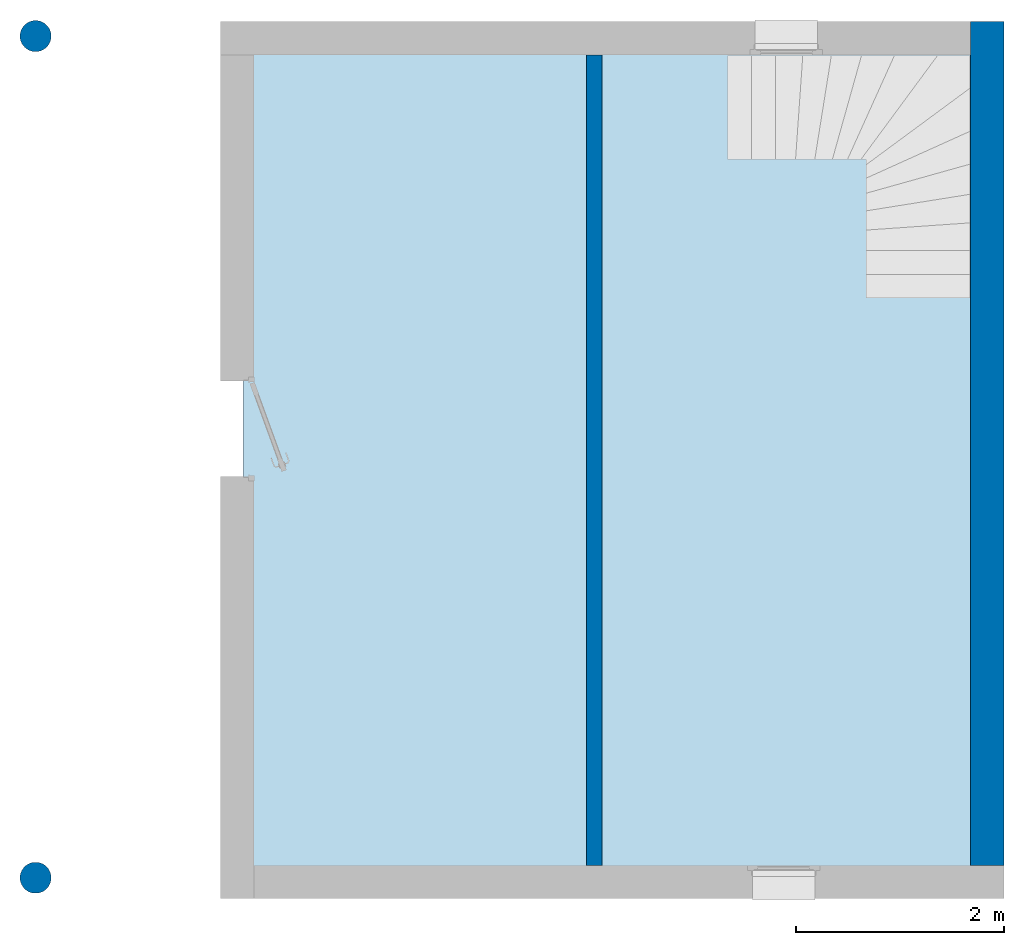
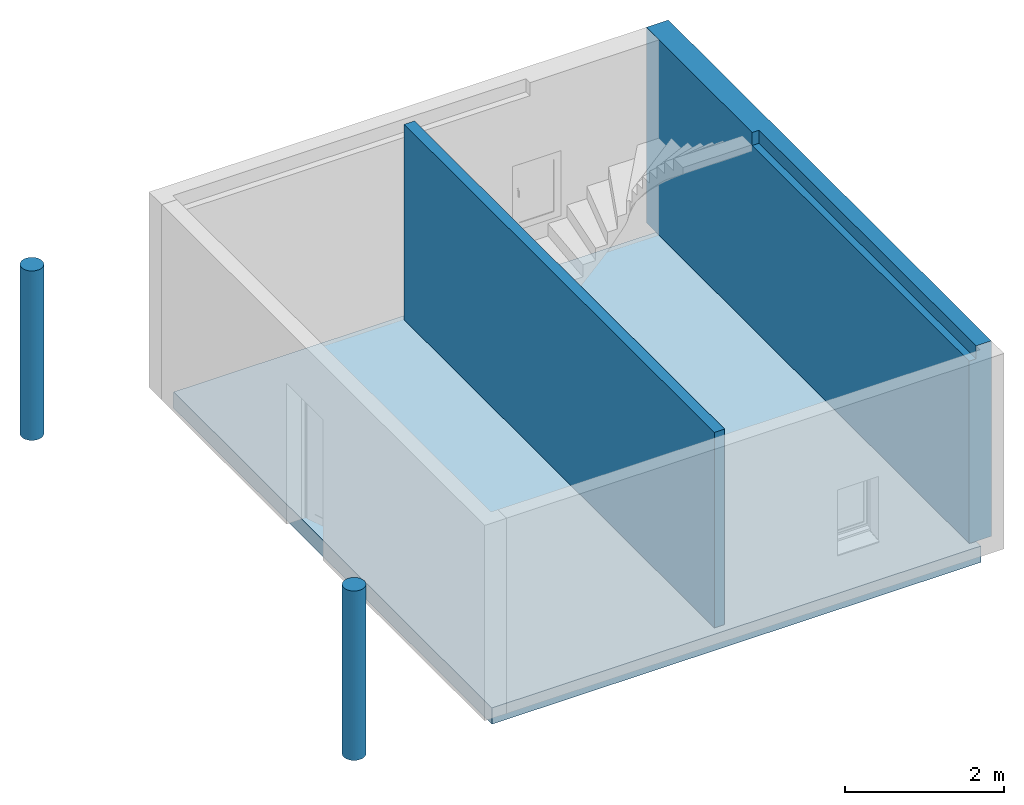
# One storey, part 1 of 4: 2 columns, 2 walls, 1 slab.
"""IFC2X3 building model written with IfcOpenShell, lengths in metres."""

from ifc_helpers import new_model, entity, si_unit, converted_unit, derived_unit, direction, frame, frame_2d, origin, origin_2d_with_axis, place, context, subcontext, project, spatial, polyline, circle_curve, parameter, trimmed, segment, composite_curve, rectangle, outline, extrude, faceted_brep, source, transform, mapped, material, material_list, layer, layer_set, layer_usage, type_object, type_shapes, element, save


model = new_model("IFC2X3")

# Units and contexts
model_context = context("Model", 3, precision=1e-05, world=origin(), true_north=direction((6.12303176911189e-17, 1.0)))
context_of_model = context(None, 3, precision=1e-05, world=origin(), true_north=direction((6.12303176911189e-17, 1.0)))
body_context = subcontext(model_context, "Body", "Model", "MODEL_VIEW")
ifc_project = project(units=[si_unit("LENGTHUNIT", "METRE"), si_unit("AREAUNIT", "SQUARE_METRE"), si_unit("VOLUMEUNIT", "CUBIC_METRE"), converted_unit("PLANEANGLEUNIT", "DEGREE", entity("IfcRatioMeasure", 0.0174532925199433), si_unit("PLANEANGLEUNIT", "RADIAN"), dimensions=[0, 0, 0, 0, 0, 0, 0]), si_unit("MASSUNIT", "GRAM", prefix="KILO"), si_unit("TIMEUNIT", "SECOND"), si_unit("FREQUENCYUNIT", "HERTZ"), si_unit("THERMODYNAMICTEMPERATUREUNIT", "DEGREE_CELSIUS"), derived_unit("THERMALTRANSMITTANCEUNIT", [(si_unit("MASSUNIT", "GRAM", prefix="KILO"), 1), (si_unit("THERMODYNAMICTEMPERATUREUNIT", "KELVIN"), -1), (si_unit("TIMEUNIT", "SECOND"), -3)]), derived_unit("VOLUMETRICFLOWRATEUNIT", [(si_unit("LENGTHUNIT", "METRE"), 3), (si_unit("TIMEUNIT", "SECOND"), -1)]), si_unit("ELECTRICCURRENTUNIT", "AMPERE"), si_unit("ELECTRICVOLTAGEUNIT", "VOLT"), si_unit("POWERUNIT", "WATT"), si_unit("FORCEUNIT", "NEWTON", prefix="KILO"), si_unit("ILLUMINANCEUNIT", "LUX"), si_unit("LUMINOUSFLUXUNIT", "LUMEN"), si_unit("LUMINOUSINTENSITYUNIT", "CANDELA"), si_unit("PRESSUREUNIT", "PASCAL")], contexts=[model_context, context_of_model])

# Site, building, storey
site_placement = place(None, origin())
site = spatial("IfcSite", under=ifc_project, at=site_placement, Name="Default", CompositionType="ELEMENT")
building_placement = place(site_placement, origin())
building = spatial("IfcBuilding", under=site, at=building_placement, CompositionType="ELEMENT")
storey_placement = place(building_placement, origin())
storey = spatial("IfcBuildingStorey", under=building, at=storey_placement, Name="Niveau 0", CompositionType="ELEMENT", Elevation=-1.94916083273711e-14)

# Columns
ifc_material_1 = material(Name="Maçonnerie - Béton coulé sur place")
column_type_1 = type_object("IfcColumnType", Name="300mm", PredefinedType="COLUMN", material=ifc_material_1)
shared_shape_1 = source(origin(), body_context, "Body", "SweptSolid", [
    extrude(outline(composite_curve([segment(trimmed(circle_curve(origin_2d_with_axis(), 0.149999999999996), [parameter(98.1818181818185)], [parameter(180.0)], True, "PARAMETER"), True, "CONTINUOUS"), segment(trimmed(circle_curve(origin_2d_with_axis(), 0.149999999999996), [parameter(180.0)], [parameter(261.818181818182)], True, "PARAMETER"), True, "CONTINUOUS"), segment(polyline([(-0.0213472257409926, -0.148473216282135), (0.0213472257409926, -0.148473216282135)]), True, "CONTINUOUS"), segment(trimmed(circle_curve(origin_2d_with_axis(), 0.149999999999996), [parameter(278.181818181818)], [parameter(360.0)], True, "PARAMETER"), True, "CONTINUOUS"), segment(trimmed(circle_curve(origin_2d_with_axis(), 0.149999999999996), [parameter(0.0)], [parameter(81.8181818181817)], True, "PARAMETER"), True, "CONTINUOUS"), segment(polyline([(0.0213472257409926, 0.148473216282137), (-0.0213472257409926, 0.148473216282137)]), True, "CONTINUOUS")], self_intersect=False)), frame((-11.2424259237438, 5.07538687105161, 0.0)), (0.0, 0.0, 1.0), 2.6),
])
type_shapes(column_type_1, [shared_shape_1])
column_1_placement = place(storey_placement, origin())
element("IfcColumn", 1, at=column_1_placement, inside=storey, type_object=column_type_1, material=ifc_material_1, Name="Poteau béton - Arrondi:300mm", ObjectType="300mm", context=body_context, shape_type="MappedRepresentation", body=[
    mapped(shared_shape_1, transform((0.0, 0.0, 0.0), scale=1.0)),
])
column_type_2 = type_object("IfcColumnType", Name="300mm", PredefinedType="COLUMN", material=ifc_material_1)
shared_shape_2 = source(origin(), body_context, "Body", "SweptSolid", [
    extrude(outline(composite_curve([segment(trimmed(circle_curve(origin_2d_with_axis(), 0.149999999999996), [parameter(98.1818181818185)], [parameter(180.0)], True, "PARAMETER"), True, "CONTINUOUS"), segment(trimmed(circle_curve(origin_2d_with_axis(), 0.149999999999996), [parameter(180.0)], [parameter(261.818181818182)], True, "PARAMETER"), True, "CONTINUOUS"), segment(polyline([(-0.0213472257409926, -0.148473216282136), (0.0213472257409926, -0.148473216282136)]), True, "CONTINUOUS"), segment(trimmed(circle_curve(origin_2d_with_axis(), 0.149999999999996), [parameter(278.181818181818)], [parameter(360.0)], True, "PARAMETER"), True, "CONTINUOUS"), segment(trimmed(circle_curve(origin_2d_with_axis(), 0.149999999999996), [parameter(0.0)], [parameter(81.8181818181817)], True, "PARAMETER"), True, "CONTINUOUS"), segment(polyline([(0.0213472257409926, 0.148473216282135), (-0.0213472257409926, 0.148473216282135)]), True, "CONTINUOUS")], self_intersect=False)), frame((-11.2424259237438, -3.02461312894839, 0.0)), (0.0, 0.0, 1.0), 2.6),
])
type_shapes(column_type_2, [shared_shape_2])
column_2_placement = place(storey_placement, origin())
element("IfcColumn", 2, at=column_2_placement, inside=storey, type_object=column_type_2, material=ifc_material_1, Name="Poteau béton - Arrondi:300mm", ObjectType="300mm", context=body_context, shape_type="MappedRepresentation", body=[
    mapped(shared_shape_2, transform((0.0, 0.0, 0.0), scale=1.0)),
])

# Slab
ifc_material_2 = material(Name="Maçonnerie - Béton")
ifc_layer_1 = layer(ifc_material_2, 0.25)
ifc_layer_set_1 = layer_set([ifc_layer_1], Name="Sol:Dalle en béton - 250 mm")
ifc_layer_usage_1 = layer_usage(ifc_layer_set_1, "AXIS3", "POSITIVE", 0.0)
slab_placement = place(storey_placement, origin())
element("IfcSlab", 3, at=slab_placement, inside=storey, material=ifc_layer_usage_1, Name="Sol:Dalle en béton - 250 mm", ObjectType="Sol:Dalle en béton - 250 mm", PredefinedType="FLOOR", context=body_context, shape_type="SweptSolid", body=[
    extrude(rectangle(XDim=8.0, YDim=7.1, at=frame_2d((0.0, 4.44089209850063e-16), x_axis=(1.0, 0.0))), frame((-5.69242592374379, 0.975386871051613, 0.0), z_axis=(0.0, 0.0, -1.0), x_axis=(0.0, 1.0, 0.0)), (0.0, 0.0, 1.0), 0.25),
])

# Walls
ifc_material_3 = material(Name="Mur par défaut")
ifc_layer_2 = layer(ifc_material_3, 0.15)
ifc_layer_set_2 = layer_set([ifc_layer_2], Name="Mur de base:Générique - Ext. 150 mm")
ifc_layer_usage_2 = layer_usage(ifc_layer_set_2, "AXIS2", "NEGATIVE", 0.075)
wall_type_1 = type_object("IfcWallType", Name="Mur de base:Générique - Ext. 150 mm", PredefinedType="STANDARD", material=ifc_layer_set_2)
wall_1_placement = place(storey_placement, frame((-5.86742592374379, 4.89538687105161, 0.0), z_axis=(0.0, 0.0, 1.0), x_axis=(0.0, -1.0, 0.0)))
element("IfcWallStandardCase", 4, at=wall_1_placement, inside=storey, type_object=wall_type_1, material=ifc_layer_usage_2, Name="Mur de base:Générique - Ext. 150 mm", ObjectType="Mur de base:Générique - Ext. 150 mm", context=body_context, shape_type="SweptSolid", body=[
    extrude(rectangle(XDim=7.8, YDim=0.150000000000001, at=frame_2d((3.9, -1.59594559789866e-16), x_axis=(-1.0, 0.0))), origin(), (0.0, 0.0, 1.0), 3.0),
])
ifc_material_4 = material(Name="Maçonnerie - Enduit")
ifc_material_5 = material(Name="Blocs béton manufacturés")
ifc_material_6 = material(Name="Maçonnerie - Isolant")
ifc_material_list = material_list([ifc_material_4, ifc_material_5, ifc_material_6])
wall_type_2 = type_object("IfcWallType", Name="Mur de base:Ext. Parpaing 20 + Isolant 10", PredefinedType="NOTDEFINED")
wall_2_placement = place(storey_placement, frame((-2.0824259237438, 5.21538687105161, 0.0), z_axis=(0.0, 0.0, 1.0), x_axis=(0.0, -1.0, 0.0)))
element("IfcWall", 5, at=wall_2_placement, inside=storey, type_object=wall_type_2, material=ifc_material_list, Name="Mur de base:Ext. Parpaing 20 + Isolant 10", ObjectType="Mur de base:Ext. Parpaing 20 + Isolant 10", context=body_context, shape_type="Brep", body=[
    faceted_brep([(0.0, -0.16, 0.0), (0.32, -0.16, 0.0), (8.12, -0.16, 0.0), (8.12, -0.16, 2.8), (2.66204778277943, -0.16, 2.8), (2.66204778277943, -0.16, 3.0), (0.32, -0.16, 3.0), (0.0, -0.16, 3.0), (8.12, 0.16, 0.0), (0.0, 0.16, 0.0), (0.0, 0.16, 3.0), (8.12, 0.16, 3.0), (2.66204778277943, -0.0600000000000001, 3.0), (8.12, -0.06, 3.0), (8.12, -0.06, 2.8), (2.66204778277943, -0.0600000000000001, 2.8)], [[[0, 1, 2, 3, 4, 5, 6, 7]], [[8, 9, 10, 11]], [[2, 1, 0, 9, 8]], [[11, 10, 7, 6, 5, 12, 13]], [[0, 7, 10, 9]], [[2, 8, 11, 13, 14, 3]], [[14, 15, 4, 3]], [[12, 15, 14, 13]], [[15, 12, 5, 4]]]),
])

save(model, "model.ifc")
